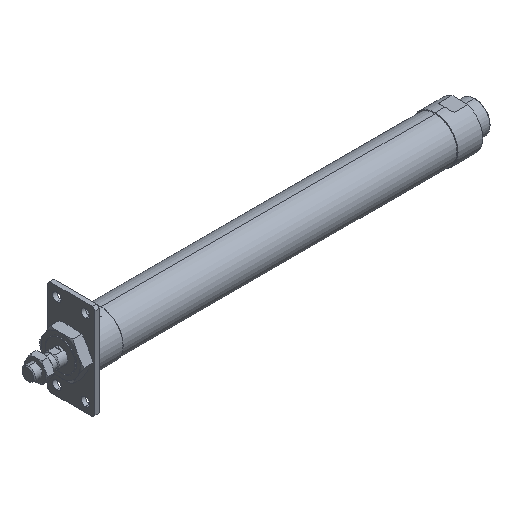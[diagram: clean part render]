
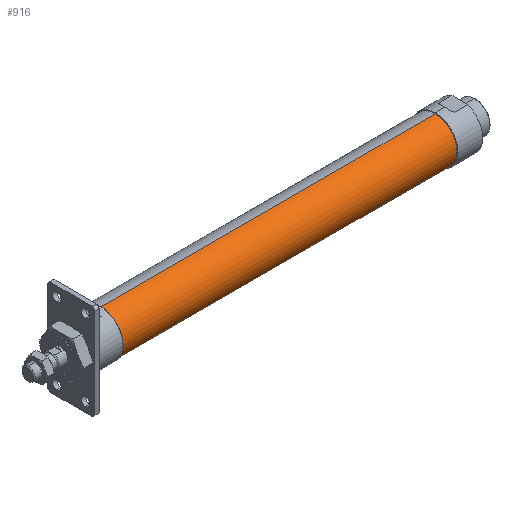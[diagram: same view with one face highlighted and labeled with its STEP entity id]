
A CAD part, isometric view. The second image highlights one B-rep face of the part: STEP entity #916.
In plain terms, the highlighted cylindrical face has radius 23 mm (diameter 46 mm), a partial arc.
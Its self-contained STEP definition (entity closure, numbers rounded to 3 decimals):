
#15 = VECTOR ( 'NONE', #4090, 1000. ) ;
#92 = ORIENTED_EDGE ( 'NONE', *, *, #747, .F. ) ;
#145 = CIRCLE ( 'NONE', #3797, 23. ) ;
#251 = VERTEX_POINT ( 'NONE', #4113 ) ;
#258 = CARTESIAN_POINT ( 'NONE',  ( -1.784, 0., 23. ) ) ;
#554 = CARTESIAN_POINT ( 'NONE',  ( 76., 0., 0. ) ) ;
#738 = LINE ( 'NONE', #258, #15 ) ;
#747 = EDGE_CURVE ( 'NONE', #2785, #251, #3170, .T. ) ;
#916 = ADVANCED_FACE ( 'NONE', ( #1392 ), #2636, .T. ) ;
#1024 = DIRECTION ( 'NONE',  ( -1., 0., 0. ) ) ;
#1026 = CIRCLE ( 'NONE', #2129, 23. ) ;
#1112 = CARTESIAN_POINT ( 'NONE',  ( -1.784, 0., 0. ) ) ;
#1118 = EDGE_CURVE ( 'NONE', #2785, #1954, #1026, .T. ) ;
#1158 = CARTESIAN_POINT ( 'NONE',  ( 427., 0., -23. ) ) ;
#1334 = CARTESIAN_POINT ( 'NONE',  ( 76., 0., 23. ) ) ;
#1392 = FACE_OUTER_BOUND ( 'NONE', #3238, .T. ) ;
#1846 = EDGE_CURVE ( 'NONE', #251, #1895, #145, .T. ) ;
#1895 = VERTEX_POINT ( 'NONE', #1334 ) ;
#1954 = VERTEX_POINT ( 'NONE', #3551 ) ;
#2000 = ORIENTED_EDGE ( 'NONE', *, *, #2694, .T. ) ;
#2025 = VECTOR ( 'NONE', #3352, 1000. ) ;
#2106 = DIRECTION ( 'NONE',  ( 0., 0., 1. ) ) ;
#2129 = AXIS2_PLACEMENT_3D ( 'NONE', #2349, #1024, #2485 ) ;
#2181 = DIRECTION ( 'NONE',  ( -1., 0., 0. ) ) ;
#2349 = CARTESIAN_POINT ( 'NONE',  ( 427., 0., 0. ) ) ;
#2485 = DIRECTION ( 'NONE',  ( 0., 0., 1. ) ) ;
#2636 = CYLINDRICAL_SURFACE ( 'NONE', #3068, 23. ) ;
#2694 = EDGE_CURVE ( 'NONE', #1954, #1895, #738, .T. ) ;
#2705 = DIRECTION ( 'NONE',  ( 0., 0., 1. ) ) ;
#2785 = VERTEX_POINT ( 'NONE', #1158 ) ;
#3034 = DIRECTION ( 'NONE',  ( -1., 0., 0. ) ) ;
#3068 = AXIS2_PLACEMENT_3D ( 'NONE', #1112, #3034, #2106 ) ;
#3170 = LINE ( 'NONE', #4057, #2025 ) ;
#3238 = EDGE_LOOP ( 'NONE', ( #92, #3773, #2000, #4194 ) ) ;
#3352 = DIRECTION ( 'NONE',  ( -1., 0., 0. ) ) ;
#3551 = CARTESIAN_POINT ( 'NONE',  ( 427., 0., 23. ) ) ;
#3773 = ORIENTED_EDGE ( 'NONE', *, *, #1118, .T. ) ;
#3797 = AXIS2_PLACEMENT_3D ( 'NONE', #554, #2181, #2705 ) ;
#4057 = CARTESIAN_POINT ( 'NONE',  ( -1.784, 0., -23. ) ) ;
#4090 = DIRECTION ( 'NONE',  ( -1., 0., 0. ) ) ;
#4113 = CARTESIAN_POINT ( 'NONE',  ( 76., 0., -23. ) ) ;
#4194 = ORIENTED_EDGE ( 'NONE', *, *, #1846, .F. ) ;
